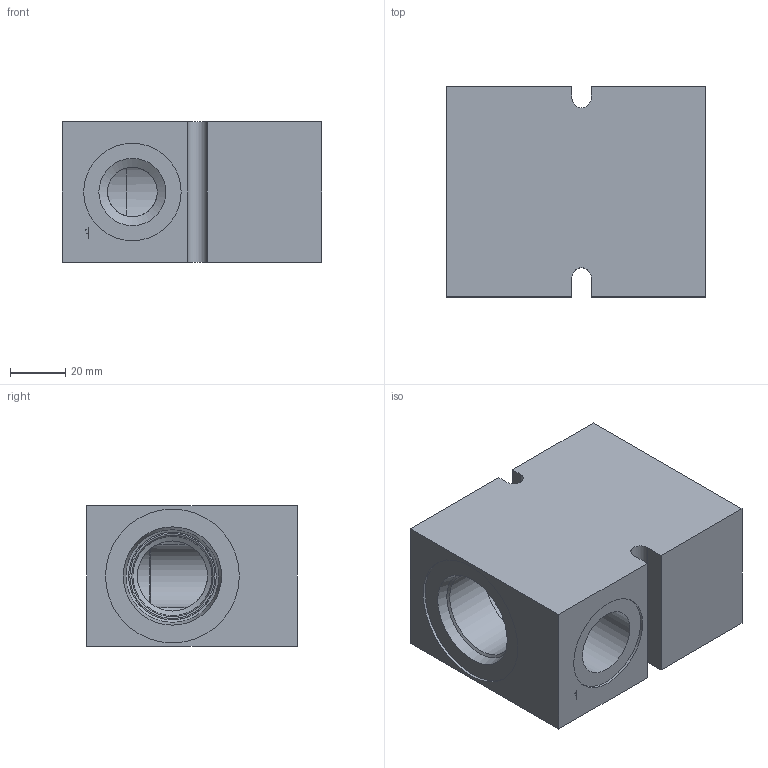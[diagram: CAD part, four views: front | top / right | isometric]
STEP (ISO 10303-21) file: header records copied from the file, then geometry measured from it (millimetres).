
FILE_DESCRIPTION( ( 'Unknown' ), '1' );
FILE_NAME( 'G:/Graphic Design/Graphic Design 2/Data Sheets/Delta Bodies/DRAWINGS/B-DSJD2L.stp', 'Unknown', ( 'Unknown' ), ( 'Unknown' ), 'PSStep 16.0.42', 'Unknown', ' ' );
FILE_SCHEMA( ( 'AUTOMOTIVE_DESIGN { 1 0 10303 214 1 1 1 1 }' ) );
Length unit declared in the file: millimetre
Products named in the file (2): Assem1; B-DSJD2L
Assembly tree (1 placements, depth 2):
  Assem1
    B-DSJD2L
Bounding box: 94 x 76.2 x 50.8 mm (x, y, z)
Surface area: 42745.3 mm2 (no closed solid volume)
Topology: 0 solids, 84 shells, 84 faces, 416 edges, 395 vertices
Faces by surface type: plane 57, cylinder 17, cone 9, torus 1
Full cylindrical faces by diameter (mm): 0.2 x2, 18 x1, 23 x1, 24.3 x3, 25.4 x1, 28.651 x1, 31.806 x2, 35.33 x2, 48.514 x1
Entity records: 4830 total; most frequent: CARTESIAN_POINT 1455, DIRECTION 450, VERTEX_POINT 381, ORIENTED_EDGE 380, EDGE_CURVE 380, B_SPLINE_CURVE_WITH_KNOTS 172, AXIS2_PLACEMENT_3D 156, LINE 138
